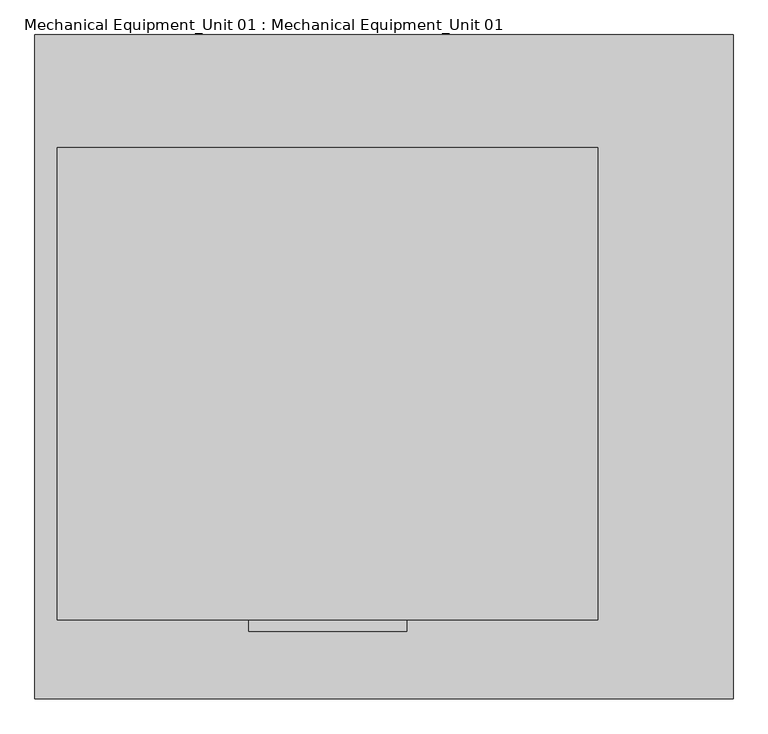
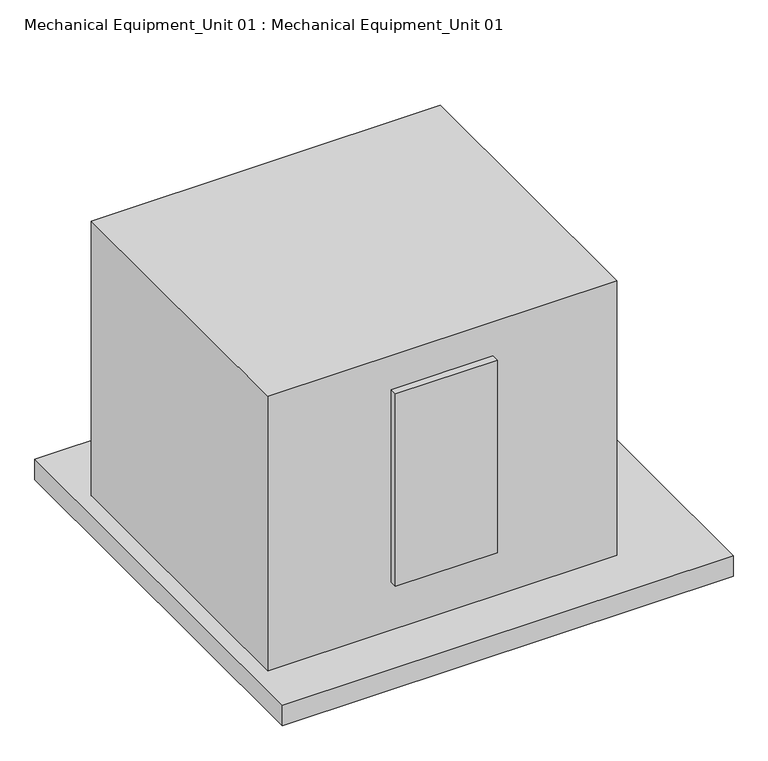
"""IFC4 building model written with IfcOpenShell, lengths in millimetres: proxy geometry, Mechanical Equipment_Unit 01 : Mechanical Equipment_Unit 01."""

from ifc_helpers import new_model, si_unit, frame, origin, origin_with_axes, place, context, project, spatial, polyline, outline, extrude, source, transform, mapped, element, save


def mechanical_equipment_unit_01_mechanical_equipment_unit_01_60a01225(model_context):
    return source(origin(), model_context, "Body", "SweptSolid", [
        extrude(outline(polyline([(177.8, -533.4), (177.8, -558.8), (-177.8, -558.8), (-177.8, -533.4), (177.8, -533.4)])), frame((0.0, 0.0, 254.0), z_axis=(0.0, 0.0, 1.0), x_axis=(1.0, 0.0, 0.0)), (0.0, 0.0, 1.0), 711.2),
        extrude(outline(polyline([(914.4, 787.4), (914.4, -711.2), (-660.4, -711.2), (-660.4, 787.4), (914.4, 787.4)])), origin_with_axes(), (0.0, 0.0, 1.0), 76.2),
        extrude(outline(polyline([(609.6, 533.4), (609.6, -533.4), (-609.6, -533.4), (-609.6, 533.4), (609.6, 533.4)])), frame((0.0, 0.0, 76.2), z_axis=(0.0, 0.0, 1.0), x_axis=(1.0, 0.0, 0.0)), (0.0, 0.0, 1.0), 1016.0),
    ])


if __name__ == "__main__":
    model = new_model("IFC4")
    model_context = context("Model", 3, world=origin())
    ifc_project = project(units=[si_unit("LENGTHUNIT", "METRE", prefix="MILLI")], contexts=[model_context])
    site = spatial("IfcSite", under=ifc_project)
    building = spatial("IfcBuilding", under=site)
    placement = place(None, origin())
    mechanical_equipment_unit_01_mechanical_equipment_unit_01_shape = mechanical_equipment_unit_01_mechanical_equipment_unit_01_60a01225(model_context)
    element("IfcBuildingElementProxy", 1, Name="Mechanical Equipment_Unit 01 : Mechanical Equipment_Unit 01", ObjectType="Mechanical Equipment_Unit 01 : Mechanical Equipment_Unit 01", at=placement, inside=building, context=model_context, shape_type="MappedRepresentation", body=[
        mapped(mechanical_equipment_unit_01_mechanical_equipment_unit_01_shape, transform((0.0, 0.0, 0.0), x_axis=(1.0, 0.0, 0.0), y_axis=(0.0, 1.0, 0.0), z_axis=(0.0, 0.0, 1.0))),
    ])
    save(model, "model.ifc")
